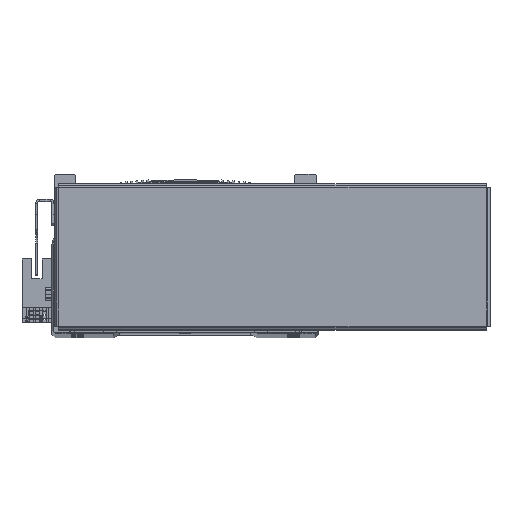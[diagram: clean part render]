
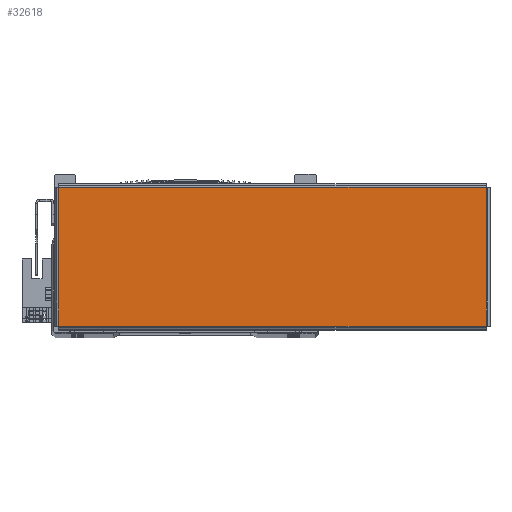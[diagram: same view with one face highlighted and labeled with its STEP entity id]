
A CAD part, top view. The second image highlights one B-rep face of the part: STEP entity #32618.
In plain terms, the highlighted planar face has unit normal (0, 0, 1) as drawn and (0, 0, -1) by its records, which use the part's own axes.
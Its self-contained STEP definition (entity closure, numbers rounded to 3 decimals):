
#9215 = EDGE_LOOP ( 'NONE', ( #68367, #68410, #68411, #68442 ) ) ;
#9369 = AXIS2_PLACEMENT_3D ( 'NONE', #22923, #22959, #22943 ) ;
#16204 = CARTESIAN_POINT ( 'NONE',  ( -97.863, -31.763, -1. ) ) ;
#16219 = CARTESIAN_POINT ( 'NONE',  ( 97.863, 31.763, -1. ) ) ;
#16222 = CARTESIAN_POINT ( 'NONE',  ( 97.863, -31.763, -1. ) ) ;
#16281 = CARTESIAN_POINT ( 'NONE',  ( -97.863, 31.763, -1. ) ) ;
#19960 = FACE_OUTER_BOUND ( 'NONE', #9215, .T. ) ;
#22923 = CARTESIAN_POINT ( 'NONE',  ( 0., 0., -1. ) ) ;
#22936 = PLANE ( 'NONE',  #9369 ) ;
#22943 = DIRECTION ( 'NONE',  ( 1., 0., 0. ) ) ;
#22959 = DIRECTION ( 'NONE',  ( 0., 0., 1. ) ) ;
#32618 = ADVANCED_FACE ( 'NONE', ( #19960 ), #22936, .F. ) ;
#52676 = LINE ( 'NONE', #55834, #52772 ) ;
#52772 = VECTOR ( 'NONE', #55835, 1000. ) ;
#55834 = CARTESIAN_POINT ( 'NONE',  ( 97.893, -31.763, -1. ) ) ;
#55835 = DIRECTION ( 'NONE',  ( -1., 0., 0. ) ) ;
#55881 = DIRECTION ( 'NONE',  ( 1., 0., 0. ) ) ;
#55906 = CARTESIAN_POINT ( 'NONE',  ( -97.893, 31.763, -1. ) ) ;
#55951 = CARTESIAN_POINT ( 'NONE',  ( 97.863, 31.793, -1. ) ) ;
#55952 = DIRECTION ( 'NONE',  ( 0., -1., 0. ) ) ;
#56037 = CARTESIAN_POINT ( 'NONE',  ( -97.863, -31.793, -1. ) ) ;
#56040 = DIRECTION ( 'NONE',  ( 0., 1., 0. ) ) ;
#56877 = VECTOR ( 'NONE', #55952, 1000. ) ;
#56878 = LINE ( 'NONE', #55906, #56892 ) ;
#56892 = VECTOR ( 'NONE', #55881, 1000. ) ;
#56894 = LINE ( 'NONE', #55951, #56877 ) ;
#56946 = VECTOR ( 'NONE', #56040, 1000. ) ;
#56950 = LINE ( 'NONE', #56037, #56946 ) ;
#62894 = VERTEX_POINT ( 'NONE', #16204 ) ;
#62900 = VERTEX_POINT ( 'NONE', #16219 ) ;
#62904 = VERTEX_POINT ( 'NONE', #16222 ) ;
#62920 = VERTEX_POINT ( 'NONE', #16281 ) ;
#68367 = ORIENTED_EDGE ( 'NONE', *, *, #82634, .T. ) ;
#68410 = ORIENTED_EDGE ( 'NONE', *, *, #82604, .T. ) ;
#68411 = ORIENTED_EDGE ( 'NONE', *, *, #82661, .T. ) ;
#68442 = ORIENTED_EDGE ( 'NONE', *, *, #82613, .T. ) ;
#82604 = EDGE_CURVE ( 'NONE', #62904, #62894, #52676, .T. ) ;
#82613 = EDGE_CURVE ( 'NONE', #62920, #62900, #56878, .T. ) ;
#82634 = EDGE_CURVE ( 'NONE', #62900, #62904, #56894, .T. ) ;
#82661 = EDGE_CURVE ( 'NONE', #62894, #62920, #56950, .T. ) ;
